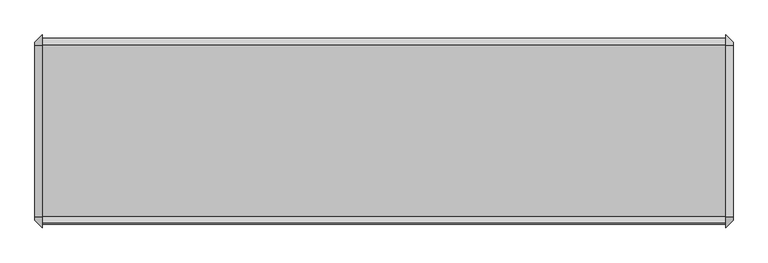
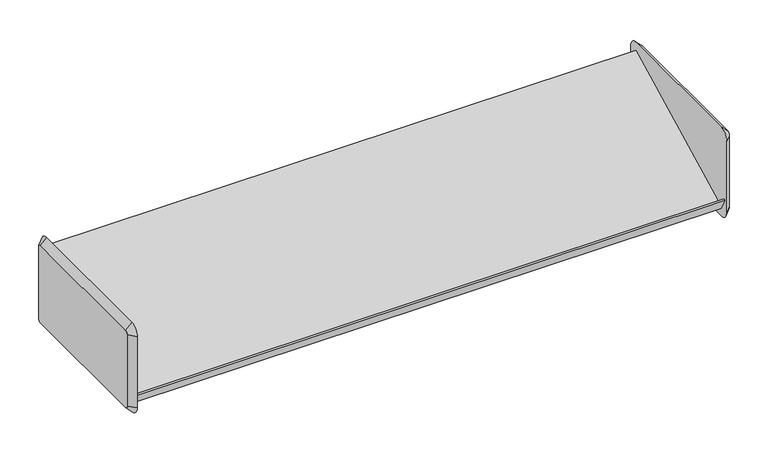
"""IFC4 building model written with IfcOpenShell, lengths in millimetres: furniture geometry."""

import ifcopenshell
import ifcopenshell.guid

model = None  # the IFC model being written
_history = None  # IfcOwnerHistory: only IFC2X3 demands one
_inside = {}  # id of a spatial element -> (the spatial element, [elements in it])
_under = {}  # id of a project, library or spatial element -> (it, [spatial elements below it])
_declared = {}  # id of a project -> (the project, [libraries it declares])
_typed = {}  # id of a type object -> (the type object, [elements of that type])
_made_of = {}  # id of a material, layer set ... -> (it, [elements and type objects made of it])


def new_model(schema):
    """Start an empty IFC model of exactly this schema.

    Asked for "IFC4X3", IfcOpenShell would pick the latest addendum, in which some entities
    have other attributes; the version numbers below select the first issue.
    IFC2X3 requires an IfcOwnerHistory on every rooted entity: one is made here for all.
    """
    global model, _history
    if schema == "IFC4X3":
        model = ifcopenshell.file(schema_version=(4, 3, 0, 0))
    else:
        model = ifcopenshell.file(schema=schema)
    _inside.clear()
    _under.clear()
    _declared.clear()
    _typed.clear()
    _made_of.clear()
    _history = None
    if model.schema == "IFC2X3":
        org = make("IfcOrganization", Name="unknown")
        user = make(
            "IfcPersonAndOrganization",
            ThePerson=make("IfcPerson", FamilyName="unknown"),
            TheOrganization=org,
        )
        app = make(
            "IfcApplication",
            ApplicationDeveloper=org,
            Version="unknown",
            ApplicationFullName="unknown",
            ApplicationIdentifier="unknown",
        )
        _history = make(
            "IfcOwnerHistory",
            OwningUser=user,
            OwningApplication=app,
            ChangeAction="ADDED",
            CreationDate=0,
        )
    return model


def make(cls, **values):
    """One entity of the class cls with the attributes given. An attribute that is None is left unset."""
    return model.create_entity(
        cls, **{name: value for name, value in values.items() if value is not None}
    )


def rooted(cls, **values):
    """An entity with a GlobalId (a new one), such as an element, a storey or a relation."""
    return make(cls, GlobalId=ifcopenshell.guid.new(), OwnerHistory=_history, **values)


def si_unit(unit_type, name, prefix=None):
    """IfcSIUnit, for example si_unit("LENGTHUNIT", "METRE", prefix="MILLI")."""
    return make("IfcSIUnit", UnitType=unit_type, Prefix=prefix, Name=name)


def assignment(units):
    """IfcUnitAssignment: the units of a project."""
    return None if units is None else make("IfcUnitAssignment", Units=units)


def point(xyz):
    """IfcCartesianPoint."""
    return None if xyz is None else make("IfcCartesianPoint", Coordinates=xyz)


def direction(xyz):
    """IfcDirection."""
    return None if xyz is None else make("IfcDirection", DirectionRatios=xyz)


def frame(location, z_axis=None, x_axis=None):
    """IfcAxis2Placement3D, a coordinate frame: its origin and axes. An axis left out is left unset."""
    return make(
        "IfcAxis2Placement3D",
        Location=point(location),
        Axis=direction(z_axis),
        RefDirection=direction(x_axis),
    )


def origin():
    """The frame at (0, 0, 0) with its axes left unset."""
    return frame((0.0, 0.0, 0.0))


def place(relative_to, where):
    """IfcLocalPlacement: puts the frame where relative to a parent placement (None: the world)."""
    return make(
        "IfcLocalPlacement", PlacementRelTo=relative_to, RelativePlacement=where
    )


def context(
    kind, dimensions, precision=None, world=None, true_north=None, identifier=None
):
    """IfcGeometricRepresentationContext, for example the 3D "Model" context."""
    return make(
        "IfcGeometricRepresentationContext",
        ContextIdentifier=identifier,
        ContextType=kind,
        CoordinateSpaceDimension=dimensions,
        Precision=precision,
        WorldCoordinateSystem=world,
        TrueNorth=true_north,
    )


def project(units=None, contexts=None):
    """IfcProject with its units and contexts."""
    return rooted(
        "IfcProject",
        Name="project",
        RepresentationContexts=contexts,
        UnitsInContext=assignment(units),
    )


def spatial(cls, under=None, at=None, **own):
    """A site, building, storey or space (cls), placed at a placement, below another one or the project."""
    s = rooted(cls, ObjectPlacement=at, **own)
    if under is not None:
        _under.setdefault(under.id(), (under, []))[1].append(s)
    return s


def polyline(points):
    """IfcPolyline through the points."""
    return make("IfcPolyline", Points=[point(p) for p in points])


def circle_curve(where, radius):
    """IfcCircle in the frame where."""
    return make("IfcCircle", Position=where, Radius=radius)


def outline(outer, holes=None, kind="AREA"):
    """IfcArbitraryClosedProfileDef: a profile drawn as a closed curve; with holes, ...WithVoids."""
    if holes is None:
        return make("IfcArbitraryClosedProfileDef", ProfileType=kind, OuterCurve=outer)
    return make(
        "IfcArbitraryProfileDefWithVoids",
        ProfileType=kind,
        OuterCurve=outer,
        InnerCurves=holes,
    )


def extrude(swept, where, along, depth):
    """IfcExtrudedAreaSolid: the profile swept, set in the frame where, extruded along a direction by depth."""
    return make(
        "IfcExtrudedAreaSolid",
        SweptArea=swept,
        Position=where,
        ExtrudedDirection=direction(along),
        Depth=depth,
    )


def shape(context_of_items, identifier, shape_type, items):
    """IfcShapeRepresentation: the items that make up one representation, for example the "Body"."""
    return make(
        "IfcShapeRepresentation",
        ContextOfItems=context_of_items,
        RepresentationIdentifier=identifier,
        RepresentationType=shape_type,
        Items=items,
    )


def source(mapping_origin, context_of_items, identifier, shape_type, items):
    """IfcRepresentationMap: a shape defined once, which mapped items show again and again."""
    return make(
        "IfcRepresentationMap",
        MappingOrigin=mapping_origin,
        MappedRepresentation=shape(context_of_items, identifier, shape_type, items),
    )


def transform(
    local_origin,
    x_axis=None,
    y_axis=None,
    z_axis=None,
    scale=None,
    scale2=None,
    scale3=None,
    uniform=True,
):
    """IfcCartesianTransformationOperator3D, or its non-uniform kind. x_axis, y_axis, z_axis: its Axis1, 2, 3."""
    if uniform:
        return make(
            "IfcCartesianTransformationOperator3D",
            Axis1=direction(x_axis),
            Axis2=direction(y_axis),
            LocalOrigin=point(local_origin),
            Scale=scale,
            Axis3=direction(z_axis),
        )
    return make(
        "IfcCartesianTransformationOperator3DnonUniform",
        Axis1=direction(x_axis),
        Axis2=direction(y_axis),
        LocalOrigin=point(local_origin),
        Scale=scale,
        Axis3=direction(z_axis),
        Scale2=scale2,
        Scale3=scale3,
    )


def mapped(mapping_source, mapping_target):
    """IfcMappedItem: shows the shape of a source again, moved by a transform."""
    return make(
        "IfcMappedItem", MappingSource=mapping_source, MappingTarget=mapping_target
    )


def made_of(thing, what):
    """Note that an element or type object is made of a material, layer set ...; save() writes the relation."""
    if what is not None:
        _made_of.setdefault(what.id(), (what, []))[1].append(thing)
    return thing


def element(
    cls,
    number,
    at=None,
    inside=None,
    cuts=None,
    type_object=None,
    material=None,
    context=None,
    identifier="Body",
    shape_type=None,
    held_by="IfcProductDefinitionShape",
    body=None,
    shapes=None,
    **own,
):
    """One element of the class cls, such as IfcWall. Its Tag is "e" and its number.

    at: its placement. inside: the storey or other place that contains it. cuts: it is an
    opening in that element (IfcRelVoidsElement). A single representation is given by context,
    identifier, shape_type and body (its items); several are given by shapes. held_by: the class
    of the entity that holds the representations. save() writes the other relations.
    """
    e = rooted(cls, Tag="e%d" % number, ObjectPlacement=at, **own)
    if body is not None:
        shapes = [shape(context, identifier, shape_type, body)]
    if shapes is not None:
        e.Representation = make(held_by, Representations=shapes)
    if inside is not None:
        _inside.setdefault(inside.id(), (inside, []))[1].append(e)
    if cuts is not None:
        rooted(
            "IfcRelVoidsElement", RelatingBuildingElement=cuts, RelatedOpeningElement=e
        )
    if type_object is not None:
        _typed.setdefault(type_object.id(), (type_object, []))[1].append(e)
    return made_of(e, material)


def aggregate(whole, parts):
    """IfcRelAggregates: a whole, such as a stair, and the parts it consists of."""
    return rooted("IfcRelAggregates", RelatingObject=whole, RelatedObjects=parts)


def save(model, path):
    """Write the relations noted so far, then the file.

    IfcRelAggregates (storeys below a building ...), IfcRelContainedInSpatialStructure (elements
    in a storey), IfcRelDefinesByType, IfcRelAssociatesMaterial and IfcRelDeclares: one each for
    every whole, place, type object, material and project.
    """
    for whole, parts in _under.values():
        aggregate(whole, parts)
    for where, things in _inside.values():
        rooted(
            "IfcRelContainedInSpatialStructure",
            RelatedElements=things,
            RelatingStructure=where,
        )
    for kind, things in _typed.values():
        rooted("IfcRelDefinesByType", RelatedObjects=things, RelatingType=kind)
    for what, things in _made_of.values():
        rooted("IfcRelAssociatesMaterial", RelatedObjects=things, RelatingMaterial=what)
    for by, libraries in _declared.values():
        rooted("IfcRelDeclares", RelatingContext=by, RelatedDefinitions=libraries)
    model.write(path)


def plane_surface(at):
    """IfcPlane: the flat surface through the origin of the frame at, square to its z axis."""
    return make("IfcPlane", Position=at)


def revolved_surface(curve, axis_point, axis_direction):
    """IfcSurfaceOfRevolution: the curve turned about the line through axis_point along axis_direction."""
    return make(
        "IfcSurfaceOfRevolution",
        SweptCurve=make("IfcArbitraryOpenProfileDef", ProfileType="CURVE", Curve=curve),
        AxisPosition=make("IfcAxis1Placement", Location=point(axis_point), Axis=direction(axis_direction)),
    )


def advanced_brep(points, edges, surfaces, faces):
    """IfcAdvancedBrep: a solid bounded by faces that lie on surfaces and meet in shared edges.

    An edge is (start, end): straight between two places in points (the first is 0);
    or (start, end, curve); or (start, end, curve, False) where it runs against its curve.
    A face is (place in surfaces, loops), or (place, loops, False) where it looks against
    its surface's normal. A loop lists edges by number (the first is 1), with a minus sign
    where the edge is run from its end to its start. The first loop is the outer one.
    """
    corners = [point(p) for p in points]
    vertices = [make("IfcVertexPoint", VertexGeometry=c) for c in corners]
    made = []
    for start, end, *more in edges:
        made.append(
            make(
                "IfcEdgeCurve",
                EdgeStart=vertices[start],
                EdgeEnd=vertices[end],
                EdgeGeometry=more[0] if more else make("IfcPolyline", Points=[corners[start], corners[end]]),
                SameSense=more[1] if len(more) > 1 else True,
            )
        )
    hull = []
    for where, loops, *sense in faces:
        bounds = []
        for j, loop in enumerate(loops):
            ring = [make("IfcOrientedEdge", EdgeElement=made[abs(k) - 1], Orientation=k > 0) for k in loop]
            bounds.append(
                make(
                    "IfcFaceOuterBound" if j == 0 else "IfcFaceBound",
                    Bound=make("IfcEdgeLoop", EdgeList=ring),
                    Orientation=True,
                )
            )
        hull.append(make("IfcAdvancedFace", Bounds=bounds, FaceSurface=surfaces[where], SameSense=sense[0] if sense else True))
    return make("IfcAdvancedBrep", Outer=make("IfcClosedShell", CfsFaces=hull))


def furniture_b927cfb1(model_context):
    return source(origin(), model_context, "Body", "SolidModel", [
        advanced_brep(
        [(485.6579955, 161.925, 1511.3), (485.6579955, -136.525, 1511.3), (485.6579955, -142.875, 1504.95), (485.6579955, -142.875, 1352.55), (485.6579955, -136.525, 1346.2), (485.6579955, 161.925, 1346.2), (485.6579955, 168.275, 1352.55), (485.6579955, 168.275, 1504.95), (472.9579955, 161.925, 1524.0), (472.9579955, 180.975, 1504.95), (472.9579955, 180.975, 1352.55), (472.9579955, 161.925, 1333.5), (472.9579955, -136.525, 1333.5), (472.9579955, -155.575, 1352.55), (472.9579955, -155.575, 1504.95), (472.9579955, -136.525, 1524.0)],
        [
            (0, 1),
            (1, 2, circle_curve(frame((485.6579955, -136.525, 1504.95), z_axis=(1.0, 2.075672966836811e-12, -2.152944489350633e-12), x_axis=(2.152910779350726e-12, 0.0, 1.0)), 6.35)),
            (2, 3),
            (3, 4, circle_curve(frame((485.6579955, -136.525, 1352.55), z_axis=(1.0, 2.059685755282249e-12, 2.067679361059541e-12), x_axis=(2.059647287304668e-12, -1.0, 0.0)), 6.35)),
            (4, 5),
            (5, 6, circle_curve(frame((485.6579955, 161.925, 1352.55), z_axis=(1.0, 2.0889956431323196e-12, -2.0889956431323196e-12), x_axis=(-2.089008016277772e-12, 0.0, -1.0)), 6.35)),
            (6, 7),
            (7, 0, circle_curve(frame((485.6579955, 161.925, 1504.95), z_axis=(1.0, 2.078337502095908e-12, 2.003730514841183e-12), x_axis=(-2.078331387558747e-12, 1.0, 0.0)), 6.35)),
            (8, 9, circle_curve(frame((472.9579955, 161.925, 1504.95), z_axis=(-1.0, -2.078337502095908e-12, -2.003730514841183e-12), x_axis=(-2.078331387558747e-12, 1.0, 0.0)), 19.05)),
            (9, 10),
            (10, 11, circle_curve(frame((472.9579955, 161.925, 1352.55), z_axis=(-1.0, -2.0889956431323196e-12, 2.0889956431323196e-12), x_axis=(-2.089008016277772e-12, 0.0, -1.0)), 19.05)),
            (11, 12),
            (12, 13, circle_curve(frame((472.9579955, -136.525, 1352.55), z_axis=(-1.0, -2.059685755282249e-12, -2.067679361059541e-12), x_axis=(2.059647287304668e-12, -1.0, 0.0)), 19.05)),
            (13, 14),
            (14, 15, circle_curve(frame((472.9579955, -136.525, 1504.95), z_axis=(-1.0, -2.075672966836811e-12, 2.152944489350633e-12), x_axis=(2.152910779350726e-12, 0.0, 1.0)), 19.05)),
            (15, 8),
            (15, 1),
            (0, 8),
            (14, 2),
            (13, 3),
            (12, 4),
            (11, 5),
            (10, 6),
            (9, 7),
        ],
        [
            plane_surface(frame((485.6579955, 12.7, 1428.75), z_axis=(1.0, 0.0, 0.0), x_axis=(0.0, -1.0, 0.0))),
            plane_surface(frame((472.9579955, 12.7, 1428.75), z_axis=(-1.0, 0.0, 0.0), x_axis=(0.0, -1.0, 0.0))),
            plane_surface(frame((472.9579955, 12.7, 1524.0), z_axis=(0.707106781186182, 0.0, 0.7071067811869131), x_axis=(0.0, -1.0, 0.0))),
            revolved_surface(polyline([(485.6579955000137, -136.525, 1511.2999999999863), (472.9579955, -136.525, 1524.0)]), (492.0079955, -136.525, 1504.95), (-1.0, -2.075672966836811e-12, 2.152944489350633e-12)),
            plane_surface(frame((472.9579955, -155.575, 1428.75), z_axis=(0.7071067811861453, -0.7071067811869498, 0.0), x_axis=(0.0, 0.0, -1.0))),
            revolved_surface(polyline([(485.6579955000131, -142.87499999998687, 1352.55), (472.9579954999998, -155.57500000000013, 1352.55)]), (492.0079955, -136.525, 1352.55), (-1.0, -2.059685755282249e-12, -2.067679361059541e-12)),
            plane_surface(frame((472.9579955, 12.7, 1333.5), z_axis=(0.707106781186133, 0.0, -0.707106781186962), x_axis=(0.0, 1.0, 0.0))),
            revolved_surface(polyline([(485.6579955, 161.925, 1346.2), (472.9579954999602, 161.925, 1333.4999999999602)]), (492.0079955, 161.925, 1352.55), (-1.0, -2.0889956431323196e-12, 2.0889956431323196e-12)),
            plane_surface(frame((472.9579955, 180.975, 1428.75), z_axis=(0.7071067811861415, 0.7071067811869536, 0.0), x_axis=(0.0, 0.0, 1.0))),
            revolved_surface(polyline([(485.6579955, 168.27499999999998, 1504.95), (472.95799549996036, 180.97500000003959, 1504.95)]), (492.0079955, 161.925, 1504.95), (-1.0, -2.078337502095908e-12, -2.003730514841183e-12)),
        ],
        [
            (0, [[1, 2, 3, 4, 5, 6, 7, 8]]),
            (1, [[9, 10, 11, 12, 13, 14, 15, 16]]),
            (2, [[-16, 17, -1, 18]]),
            (3, [[-15, 19, -2, -17]]),
            (4, [[-14, 20, -3, -19]]),
            (5, [[-13, 21, -4, -20]]),
            (6, [[-12, 22, -5, -21]]),
            (7, [[-11, 23, -6, -22]]),
            (8, [[-10, 24, -7, -23]]),
            (9, [[-9, -18, -8, -24]]),
        ],
    ),
        advanced_brep(
        [(-733.5420045, -136.525, 1511.3), (-733.5420045, 161.925, 1511.3), (-733.5420045, 168.275, 1504.95), (-733.5420045, 168.275, 1352.55), (-733.5420045, 161.925, 1346.2), (-733.5420045, -136.525, 1346.2), (-733.5420045, -142.875, 1352.55), (-733.5420045, -142.875, 1504.95), (-720.8420045, -136.525, 1524.0), (-720.8420045, -155.575, 1504.95), (-720.8420045, -155.575, 1352.55), (-720.8420045, -136.525, 1333.5), (-720.8420045, 161.925, 1333.5), (-720.8420045, 180.975, 1352.55), (-720.8420045, 180.975, 1504.95), (-720.8420045, 161.925, 1524.0)],
        [
            (0, 1),
            (1, 2, circle_curve(frame((-733.5420045, 161.925, 1504.95), z_axis=(-1.0, 0.0, 0.0), x_axis=(0.0, 0.0, 1.0)), 6.35)),
            (2, 3),
            (3, 4, circle_curve(frame((-733.5420045, 161.925, 1352.55), z_axis=(-1.0, 0.0, 0.0), x_axis=(0.0, 1.0, 0.0)), 6.35)),
            (4, 5),
            (5, 6, circle_curve(frame((-733.5420045, -136.525, 1352.55), z_axis=(-1.0, 0.0, 0.0), x_axis=(0.0, 0.0, -1.0)), 6.35)),
            (6, 7),
            (7, 0, circle_curve(frame((-733.5420045, -136.525, 1504.95), z_axis=(-1.0, 0.0, 0.0), x_axis=(0.0, -1.0, 0.0)), 6.35)),
            (8, 9, circle_curve(frame((-720.8420045, -136.525, 1504.95), z_axis=(1.0, 0.0, 0.0), x_axis=(0.0, -1.0, 0.0)), 19.05)),
            (9, 10),
            (10, 11, circle_curve(frame((-720.8420045, -136.525, 1352.55), z_axis=(1.0, 0.0, 0.0), x_axis=(0.0, 0.0, -1.0)), 19.05)),
            (11, 12),
            (12, 13, circle_curve(frame((-720.8420045, 161.925, 1352.55), z_axis=(1.0, 0.0, 0.0), x_axis=(0.0, 1.0, 0.0)), 19.05)),
            (13, 14),
            (14, 15, circle_curve(frame((-720.8420045, 161.925, 1504.95), z_axis=(1.0, 0.0, 0.0), x_axis=(0.0, 0.0, 1.0)), 19.05)),
            (15, 8),
            (15, 1),
            (0, 8),
            (14, 2),
            (13, 3),
            (12, 4),
            (11, 5),
            (10, 6),
            (9, 7),
        ],
        [
            plane_surface(frame((-733.5420045, 12.7, 1428.75), z_axis=(-1.0, 0.0, 0.0), x_axis=(0.0, -1.0, 0.0))),
            plane_surface(frame((-720.8420045, 12.7, 1428.75), z_axis=(1.0, 0.0, 0.0), x_axis=(0.0, -1.0, 0.0))),
            plane_surface(frame((-720.8420045, 12.7, 1524.0), z_axis=(-0.7071067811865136, 0.0, 0.7071067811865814), x_axis=(0.0, 1.0, 0.0))),
            revolved_surface(polyline([(-733.5420045, 161.925, 1511.3000000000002), (-720.8420045, 161.925, 1524.0)]), (-739.8920045, 161.925, 1504.95), (1.0, 0.0, 0.0)),
            plane_surface(frame((-720.8420045, 180.975, 1428.75), z_axis=(-0.7071067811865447, 0.7071067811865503, 0.0), x_axis=(0.0, 0.0, -1.0))),
            revolved_surface(polyline([(-733.5420045, 168.27500000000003, 1352.55), (-720.8420045, 180.975, 1352.55)]), (-739.8920045, 161.925, 1352.55), (1.0, 0.0, 0.0)),
            plane_surface(frame((-720.8420045, 12.7, 1333.5), z_axis=(-0.7071067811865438, 0.0, -0.7071067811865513), x_axis=(0.0, -1.0, 0.0))),
            revolved_surface(polyline([(-733.5420045, -136.525, 1346.1999999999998), (-720.8420045, -136.525, 1333.5)]), (-739.8920045, -136.525, 1352.55), (1.0, 0.0, 0.0)),
            plane_surface(frame((-720.8420045, -155.575, 1428.75), z_axis=(-0.7071067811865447, -0.7071067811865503, 0.0), x_axis=(0.0, 0.0, 1.0))),
            revolved_surface(polyline([(-733.5420045, -142.87500000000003, 1504.95), (-720.8420045, -155.575, 1504.95)]), (-739.8920045, -136.525, 1504.95), (1.0, 0.0, 0.0)),
        ],
        [
            (0, [[1, 2, 3, 4, 5, 6, 7, 8]]),
            (1, [[9, 10, 11, 12, 13, 14, 15, 16]]),
            (2, [[-16, 17, -1, 18]]),
            (3, [[-15, 19, -2, -17]]),
            (4, [[-14, 20, -3, -19]]),
            (5, [[-13, 21, -4, -20]]),
            (6, [[-12, 22, -5, -21]]),
            (7, [[-11, 23, -6, -22]]),
            (8, [[-10, 24, -7, -23]]),
            (9, [[-9, -18, -8, -24]]),
        ],
    ),
        extrude(outline(polyline([(-137.2094993, 1350.4179666), (-149.845093, 1374.8467844), (-147.0173828, 1376.2907216), (-135.8404765, 1354.6820334), (162.5893131, 1507.0717194), (175.2453599, 1483.4470972), (172.4171401, 1482.0028998), (161.2606869, 1502.8282806), (-137.2094993, 1350.4179666)])), frame((-720.8420045, 0.0, 0.0), z_axis=(1.0, 0.0, 0.0), x_axis=(0.0, 1.0, 0.0)), (0.0, 0.0, 1.0), 1193.8),
    ])


if __name__ == "__main__":
    model = new_model("IFC4")
    model_context = context("Model", 3, world=origin())
    ifc_project = project(units=[si_unit("LENGTHUNIT", "METRE", prefix="MILLI")], contexts=[model_context])
    site = spatial("IfcSite", under=ifc_project)
    building = spatial("IfcBuilding", under=site)
    placement = place(None, origin())
    furniture_shape = furniture_b927cfb1(model_context)
    element("IfcFurniture", 1, ObjectType="HermanMiller_ActionOffice_A3220_B-StyleStorageDisplay : Display 13\"D x 48\"W", at=placement, inside=building, context=model_context, shape_type="MappedRepresentation", body=[
        mapped(furniture_shape, transform((0.0, 0.0, 0.0), x_axis=(1.0, 0.0, 0.0), y_axis=(0.0, 1.0, 0.0), z_axis=(0.0, 0.0, 1.0))),
    ])
    save(model, "model.ifc")
